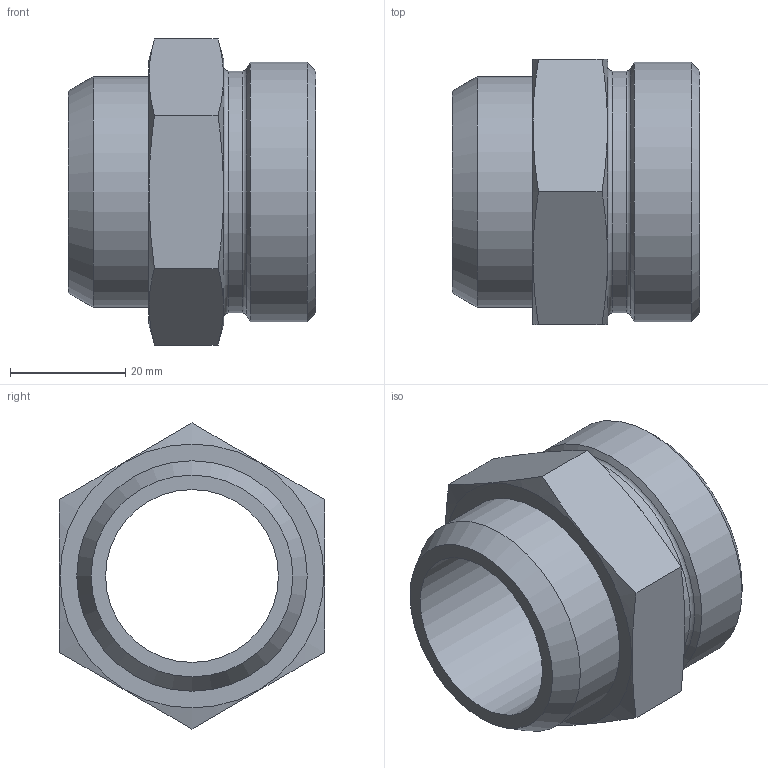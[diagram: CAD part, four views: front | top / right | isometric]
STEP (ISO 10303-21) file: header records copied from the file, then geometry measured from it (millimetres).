
FILE_DESCRIPTION( ( 'Unknown' ), '1' );
FILE_NAME( 'C:/Users/p.nanko/Desktop/3D SR/XASV35L.stp', 'Unknown', ( 'Peter Nanko' ), ( 'Armaturen Arndt' ), 'PSStep 14.0', 'Solid Edge ST4', ' ' );
FILE_SCHEMA( ( 'AUTOMOTIVE_DESIGN { 1 0 10303 214 1 1 1 1 }' ) );
Length unit declared in the file: millimetre
Products named in the file (1): 1
Bounding box: 43 x 46 x 53.12 mm (x, y, z)
Volume: 31372 mm3; surface area: 12211 mm2
Topology: 1 solids, 1 shells, 24 faces, 49 edges, 30 vertices
Faces by surface type: plane 11, cone 6, cylinder 5, torus 2
Full cylindrical faces by diameter (mm): 30 x1, 35.3 x1, 40 x1, 42 x1, 45 x1
Entity records: 840 total; most frequent: CARTESIAN_POINT 189, DIRECTION 90, ORIENTED_EDGE 70, AXIS2_PLACEMENT_3D 42, EDGE_LOOP 42, EDGE_CURVE 35, FACE_OUTER_BOUND 31, VERTEX_POINT 29
